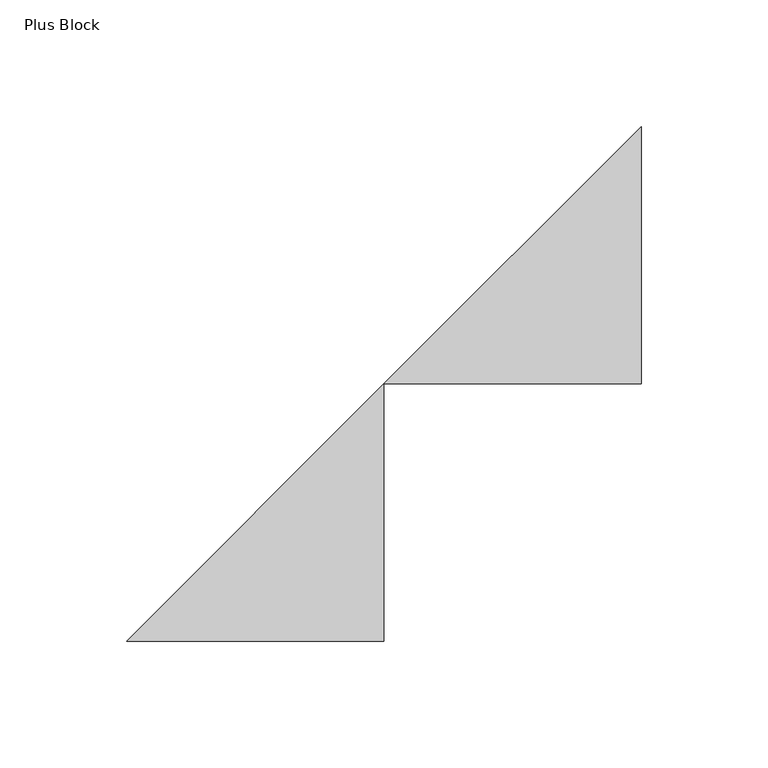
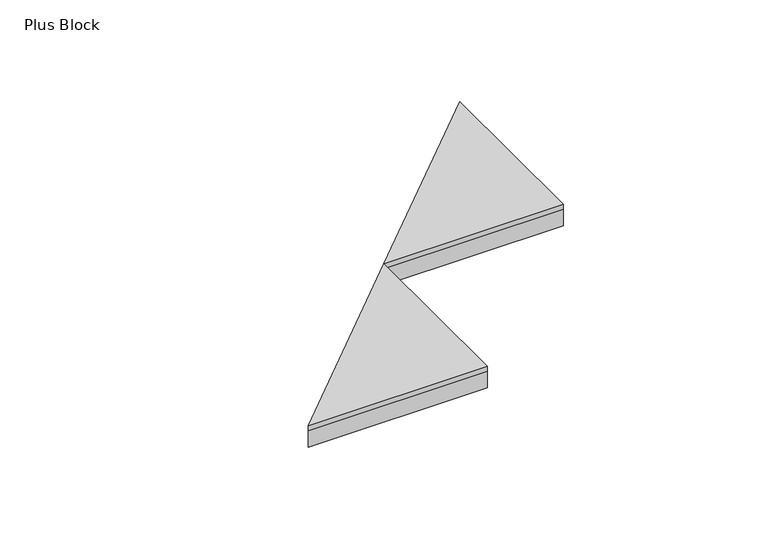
"""IFC4 building model written with IfcOpenShell, lengths in millimetres: proxy geometry, FilzFelt_Plus_Block : Plus Block."""

from ifc_helpers import new_model, si_unit, origin, place, context, project, spatial, faceted_brep, source, transform, mapped, element, save


def plus_block_45ecfcac(model_context):
    return source(origin(), model_context, "Body", "Brep", [
        faceted_brep([(152.5, 50.8333333, 10.0210937), (152.5, -50.8333333, 10.0210937), (50.8333333, -50.8333333, 10.0210937), (50.8333333, -152.5, 10.0210937), (-50.8333333, -152.5, 10.0210937), (-50.8333333, -152.5, 12.9976563), (50.8333333, -152.5, 12.9976563), (50.8333333, -50.8333333, 12.9976563), (152.5, -50.8333333, 12.9976563), (152.5, 50.8333333, 12.9976563)], [[[0, 1, 2]], [[2, 3, 4]], [[5, 6, 7]], [[7, 8, 9]], [[1, 0, 9, 8]], [[2, 1, 8, 7]], [[3, 2, 7, 6]], [[4, 3, 6, 5]], [[0, 2, 4, 5, 7, 9]]]),
        faceted_brep([(152.5, 50.8333333, 0.0), (152.5, -50.8333333, 0.0), (50.8333333, -50.8333333, 0.0), (50.8333333, -152.5, 0.0), (-50.8333333, -152.5, 0.0), (-50.8333333, -152.5, 10.0210937), (50.8333333, -152.5, 10.0210937), (50.8333333, -50.8333333, 10.0210937), (152.5, -50.8333333, 10.0210937), (152.5, 50.8333333, 10.0210937)], [[[0, 1, 2]], [[2, 3, 4]], [[5, 6, 7]], [[7, 8, 9]], [[4, 3, 6, 5]], [[1, 0, 9, 8]], [[2, 1, 8, 7]], [[3, 2, 7, 6]], [[0, 2, 4, 5, 7, 9]]]),
    ])


if __name__ == "__main__":
    model = new_model("IFC4")
    model_context = context("Model", 3, world=origin())
    ifc_project = project(units=[si_unit("LENGTHUNIT", "METRE", prefix="MILLI")], contexts=[model_context])
    site = spatial("IfcSite", under=ifc_project)
    building = spatial("IfcBuilding", under=site)
    placement = place(None, origin())
    plus_block_shape = plus_block_45ecfcac(model_context)
    element("IfcBuildingElementProxy", 1, Name="FilzFelt_Plus_Block : Plus Block", ObjectType="FilzFelt_Plus_Block : Plus Block", at=placement, inside=building, context=model_context, shape_type="MappedRepresentation", body=[
        mapped(plus_block_shape, transform((0.0, 0.0, 0.0), x_axis=(1.0, 0.0, 0.0), y_axis=(0.0, 1.0, 0.0), z_axis=(0.0, 0.0, 1.0))),
    ])
    save(model, "model.ifc")
